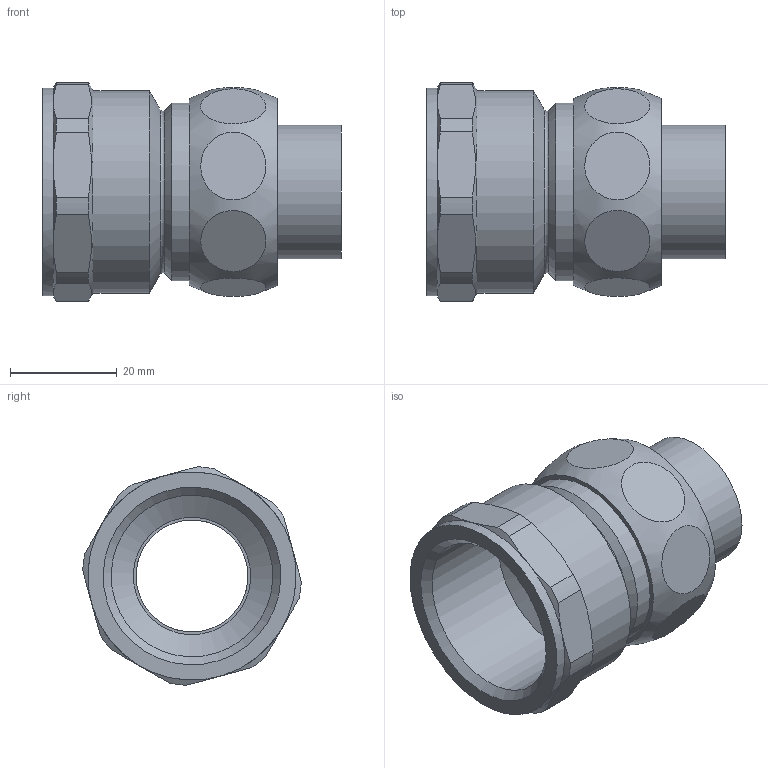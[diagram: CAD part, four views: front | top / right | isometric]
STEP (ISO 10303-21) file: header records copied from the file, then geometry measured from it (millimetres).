
FILE_DESCRIPTION(/* description */ (''),/* implementation_level */ '2;1');
FILE_NAME(/* name */ '\\lg50001\SANHA_Legnica\Engineering\Public\RYSUNKI\SANHA POLSKA\4330g\step\14330g_22-1(1).stp',/* time_stamp */ '2015-12-16T09:27:40+01:00',/* author */ ('gomulka'),/* organization */ (''),/* preprocessor_version */ 'ST-DEVELOPER v15.6',/* originating_system */ 'Autodesk Inventor 2015',/* authorisation */ '');
FILE_SCHEMA (('AUTOMOTIVE_DESIGN { 1 0 10303 214 3 1 1 }'));
Length unit declared in the file: millimetre
Products named in the file (5): 14372_22-1(1); 14370g-1_1(3); 1DCU1; 14374_1; 14330g_22-1(1)
Assembly tree (4 placements, depth 2):
  14330g_22-1(1)
    14372_22-1(1)
    14370g-1_1(3)
    1DCU1
    14374_1
Bounding box: 56 x 40.95 x 40.95 mm (x, y, z)
Volume: 26152 mm3; surface area: 17098.3 mm2
Topology: 4 solids, 4 shells, 65 faces, 133 edges, 86 vertices
Faces by surface type: plane 27, cylinder 21, cone 15, torus 1, bspline 1
Full cylindrical faces by diameter (mm): 21 x2, 22 x2, 25 x1, 27.5 x1, 29.5 x1, 30 x1, 30.291 x2, 33.249 x1, 38 x1, 39 x1
Entity records: 2173 total; most frequent: CARTESIAN_POINT 808, DIRECTION 278, ORIENTED_EDGE 220, AXIS2_PLACEMENT_3D 131, EDGE_CURVE 110, EDGE_LOOP 104, VERTEX_POINT 84, FACE_OUTER_BOUND 65
